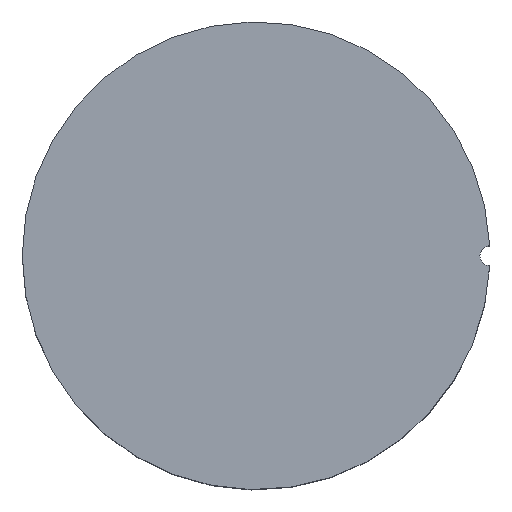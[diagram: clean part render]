
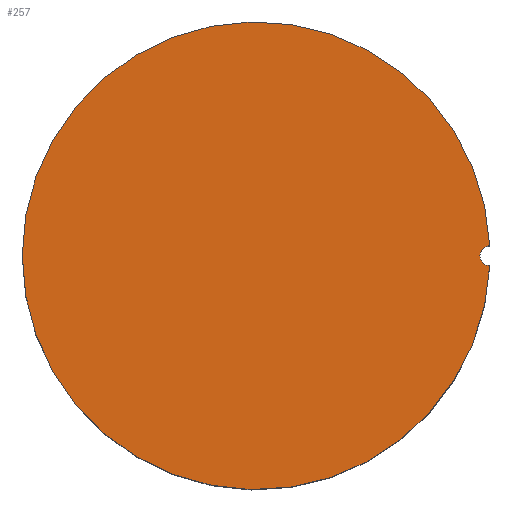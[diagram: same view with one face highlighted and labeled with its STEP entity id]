
A CAD part, top view. The second image highlights one B-rep face of the part: STEP entity #257.
In plain terms, the highlighted planar face has unit normal (0, 0, 1).
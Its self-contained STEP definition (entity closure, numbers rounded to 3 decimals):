
#43=PLANE('',#302);
#64=FACE_OUTER_BOUND('',#104,.T.);
#104=EDGE_LOOP('',(#220,#221));
#106=CIRCLE('',#262,1.5);
#127=CIRCLE('',#303,34.95);
#132=VERTEX_POINT('',#399);
#134=VERTEX_POINT('',#402);
#155=EDGE_CURVE('',#134,#132,#106,.T.);
#177=EDGE_CURVE('',#134,#132,#127,.T.);
#220=ORIENTED_EDGE('',*,*,#155,.T.);
#221=ORIENTED_EDGE('',*,*,#177,.F.);
#257=ADVANCED_FACE('',(#64),#43,.T.);
#262=AXIS2_PLACEMENT_3D('',#403,#310,#311);
#302=AXIS2_PLACEMENT_3D('',#463,#391,#392);
#303=AXIS2_PLACEMENT_3D('',#464,#393,#394);
#310=DIRECTION('center_axis',(0.,0.,-1.));
#311=DIRECTION('ref_axis',(1.,0.,0.));
#391=DIRECTION('center_axis',(0.,0.,1.));
#392=DIRECTION('ref_axis',(1.,0.,0.));
#393=DIRECTION('center_axis',(0.,0.,-1.));
#394=DIRECTION('ref_axis',(-1.,0.,0.));
#399=CARTESIAN_POINT('',(34.918,1.5,36.));
#402=CARTESIAN_POINT('',(34.918,-1.5,36.));
#403=CARTESIAN_POINT('Origin',(34.95,0.,36.));
#463=CARTESIAN_POINT('Origin',(0.,0.,36.));
#464=CARTESIAN_POINT('Origin',(0.,0.,36.));
